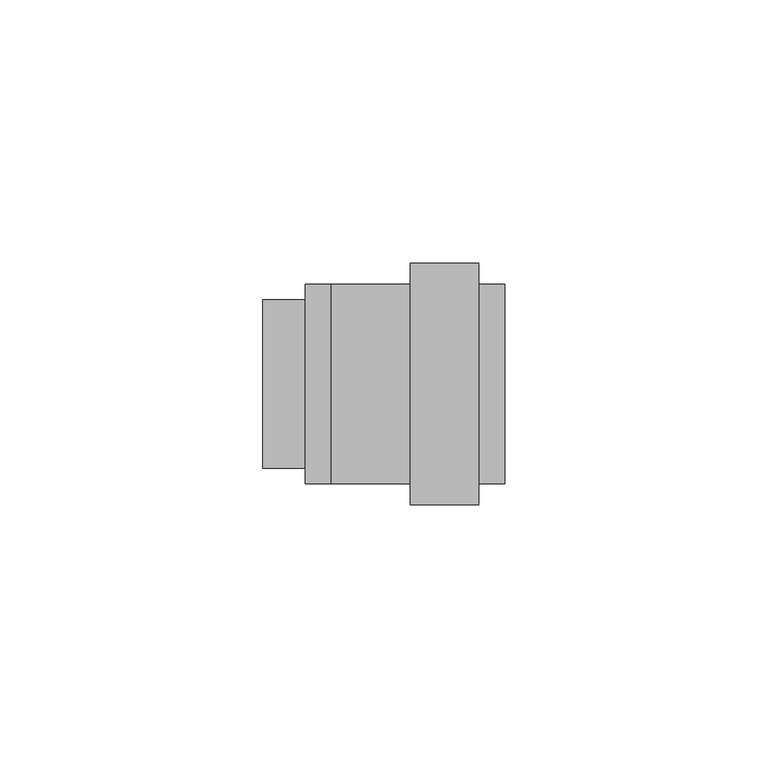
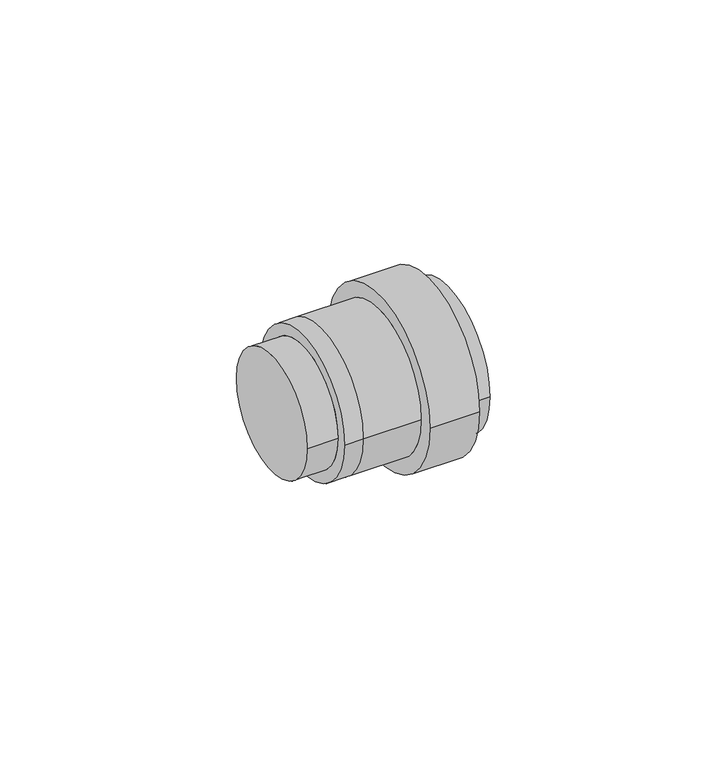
"""IFC4 building model written with IfcOpenShell, lengths in millimetres: pipe fitting geometry, Pipelife - VRD - Mufa z uszczelką : Pipelife - VRD - Mufa z uszczelką."""

from ifc_helpers import new_model, si_unit, frame, origin, place, context, project, spatial, polyline, circle_curve, source, transform, mapped, element, save
from ifc_brep_helpers import plane_surface, cylinder_surface, revolved_surface, advanced_brep


def pipe_fitting_e673ebe5(model_context):
    return source(origin(), model_context, "Body", "AdvancedBrep", [
        advanced_brep(
        [(40.5, -19.0, 0.0), (40.5, 19.0, 0.0), (40.5, -16.0, 0.0), (40.5, 16.0, 0.0), (35.5, 19.0, 0.0), (35.5, -19.0, 0.0), (7.5, -19.0, 0.0), (22.5, -19.0, 0.0), (22.5, 19.0, 0.0), (7.5, 19.0, 0.0), (5.5, 16.0, 0.0), (5.5, -16.0, 0.0), (22.5, -23.0, 0.0), (22.5, 23.0, 0.0), (35.5, -23.0, 0.0), (35.5, 23.0, 0.0), (2.5, -19.0, 0.0), (2.5, 19.0, 0.0), (2.5, 16.0, 0.0), (2.5, -16.0, 0.0), (-5.5, -16.0, 0.0), (-5.5, 16.0, 0.0)],
        [
            (0, 1, circle_curve(frame((40.5, 0.0, 0.0), z_axis=(1.0, 0.0, 0.0), x_axis=(0.0, 1.0000000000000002, 0.0)), 19.0)),
            (1, 0, circle_curve(frame((40.5, 0.0, 0.0), z_axis=(1.0, 0.0, 0.0), x_axis=(0.0, 1.0000000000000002, 0.0)), 19.0)),
            (2, 3, circle_curve(frame((40.5, 0.0, 0.0), z_axis=(-1.0, 0.0, 0.0), x_axis=(0.0, -1.0000000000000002, 0.0)), 16.0)),
            (3, 2, circle_curve(frame((40.5, 0.0, 0.0), z_axis=(-1.0, 0.0, 0.0), x_axis=(0.0, -1.0000000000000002, 0.0)), 16.0)),
            (1, 4),
            (4, 5, circle_curve(frame((35.5, 0.0, 0.0), z_axis=(1.0, 0.0, 0.0), x_axis=(0.0, 1.0000000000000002, 0.0)), 19.0)),
            (5, 0),
            (6, 7),
            (7, 8, circle_curve(frame((22.5, 0.0, 0.0), z_axis=(-1.0, 0.0, 0.0), x_axis=(0.0, 1.0000000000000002, 0.0)), 19.0)),
            (8, 9),
            (9, 6, circle_curve(frame((7.5, 0.0, 0.0), z_axis=(1.0, 0.0, 0.0), x_axis=(0.0, 1.0000000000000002, 0.0)), 19.0)),
            (5, 4, circle_curve(frame((35.5, 0.0, 0.0), z_axis=(1.0, 0.0, 0.0), x_axis=(0.0, 1.0000000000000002, 0.0)), 19.0)),
            (6, 9, circle_curve(frame((7.5, 0.0, 0.0), z_axis=(1.0, 0.0, 0.0), x_axis=(0.0, 1.0000000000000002, 0.0)), 19.0)),
            (8, 7, circle_curve(frame((22.5, 0.0, 0.0), z_axis=(-1.0, 0.0, 0.0), x_axis=(0.0, 1.0000000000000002, 0.0)), 19.0)),
            (10, 11, circle_curve(frame((5.5, 0.0, 0.0), z_axis=(1.0, 0.0, 0.0), x_axis=(0.0, -1.0000000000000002, 0.0)), 16.0)),
            (11, 10, circle_curve(frame((5.5, 0.0, 0.0), z_axis=(1.0, 0.0, 0.0), x_axis=(0.0, -1.0000000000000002, 0.0)), 16.0)),
            (10, 3),
            (2, 11),
            (12, 13, circle_curve(frame((22.5, 0.0, 0.0), z_axis=(-1.0, 0.0, 0.0), x_axis=(0.0, 1.0000000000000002, 0.0)), 23.0)),
            (13, 12, circle_curve(frame((22.5, 0.0, 0.0), z_axis=(-1.0, 0.0, 0.0), x_axis=(0.0, 1.0000000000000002, 0.0)), 23.0)),
            (14, 15, circle_curve(frame((35.5, 0.0, 0.0), z_axis=(1.0, 0.0, 0.0), x_axis=(0.0, 1.0000000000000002, 0.0)), 23.0)),
            (15, 14, circle_curve(frame((35.5, 0.0, 0.0), z_axis=(1.0, 0.0, 0.0), x_axis=(0.0, 1.0000000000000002, 0.0)), 23.0)),
            (12, 14),
            (15, 13),
            (16, 17, circle_curve(frame((2.5, 0.0, 0.0), z_axis=(-1.0, 0.0, 0.0), x_axis=(0.0, 1.0000000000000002, 0.0)), 19.0)),
            (17, 16, circle_curve(frame((2.5, 0.0, 0.0), z_axis=(-1.0, 0.0, 0.0), x_axis=(0.0, 1.0000000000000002, 0.0)), 19.0)),
            (18, 19, circle_curve(frame((2.5, 0.0, 0.0), z_axis=(1.0, 0.0, 0.0), x_axis=(0.0, 1.0000000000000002, 0.0)), 16.0)),
            (19, 18, circle_curve(frame((2.5, 0.0, 0.0), z_axis=(1.0, 0.0, 0.0), x_axis=(0.0, 1.0000000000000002, 0.0)), 16.0)),
            (16, 6),
            (9, 17),
            (20, 21, circle_curve(frame((-5.5, 0.0, 0.0), z_axis=(-1.0, 0.0, 0.0), x_axis=(0.0, 1.0000000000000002, 0.0)), 16.0)),
            (21, 20, circle_curve(frame((-5.5, 0.0, 0.0), z_axis=(-1.0, 0.0, 0.0), x_axis=(0.0, 1.0000000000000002, 0.0)), 16.0)),
            (20, 19),
            (18, 21),
        ],
        [
            plane_surface(frame((40.5, 0.0, 0.0), z_axis=(1.0, 0.0, 0.0), x_axis=(0.0, 0.0, 1.0))),
            cylinder_surface(frame((7.5, 0.0, 0.0), z_axis=(-1.0000000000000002, 0.0, 0.0), x_axis=(0.0, 1.0000000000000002, 0.0)), 19.0),
            plane_surface(frame((5.5, 0.0, 0.0), z_axis=(1.0, 0.0, 0.0), x_axis=(0.0, 0.0, 1.0))),
            revolved_surface(polyline([(40.5, -16.000000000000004, 0.0), (5.499999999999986, -16.000000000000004, 0.0)]), (40.5, 0.0, 0.0), (1.0000000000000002, 0.0, 0.0)),
            plane_surface(frame((22.5, 0.0, 0.0), z_axis=(-1.0, 0.0, 0.0), x_axis=(0.0, 0.0, 1.0))),
            plane_surface(frame((35.5, 0.0, 0.0), z_axis=(1.0, 0.0, 0.0), x_axis=(0.0, 0.0, 1.0))),
            cylinder_surface(frame((22.5, 0.0, 0.0), z_axis=(-1.0000000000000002, 0.0, 0.0), x_axis=(0.0, 1.0000000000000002, 0.0)), 23.0),
            plane_surface(frame((2.5, 0.0, 0.0), z_axis=(-1.0, 0.0, 0.0), x_axis=(0.0, 0.0, 1.0))),
            cylinder_surface(frame((2.5, 0.0, 0.0), z_axis=(-1.0000000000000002, 0.0, 0.0), x_axis=(0.0, 1.0000000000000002, 0.0)), 19.0),
            plane_surface(frame((-5.5, 0.0, 0.0), z_axis=(-1.0, 0.0, 0.0), x_axis=(0.0, 0.0, 1.0))),
            cylinder_surface(frame((-5.5, 0.0, 0.0), z_axis=(-1.0000000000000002, 0.0, 0.0), x_axis=(0.0, 1.0000000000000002, 0.0)), 16.0),
        ],
        [
            (0, [[1, 2], [3, 4]]),
            (1, [[-2, 5, 6, 7]]),
            (1, [[8, 9, 10, 11]]),
            (1, [[-1, -7, 12, -5]]),
            (1, [[-8, 13, -10, 14]]),
            (2, [[15, 16]]),
            (3, [[-15, 17, -3, 18]]),
            (3, [[-16, -18, -4, -17]]),
            (4, [[19, 20], [-9, -14]]),
            (5, [[21, 22], [-6, -12]]),
            (6, [[-19, 23, -22, 24]]),
            (6, [[-20, -24, -21, -23]]),
            (7, [[25, 26], [27, 28]]),
            (8, [[-25, 29, -11, 30]]),
            (8, [[-26, -30, -13, -29]]),
            (9, [[31, 32]]),
            (10, [[-31, 33, -27, 34]]),
            (10, [[-32, -34, -28, -33]]),
        ],
    ),
    ])


if __name__ == "__main__":
    model = new_model("IFC4")
    model_context = context("Model", 3, world=origin())
    ifc_project = project(units=[si_unit("LENGTHUNIT", "METRE", prefix="MILLI")], contexts=[model_context])
    site = spatial("IfcSite", under=ifc_project)
    building = spatial("IfcBuilding", under=site)
    placement = place(None, origin())
    pipe_fitting_shape = pipe_fitting_e673ebe5(model_context)
    element("IfcPipeFitting", 1, ObjectType="Pipelife - VRD - Mufa z uszczelką : Pipelife - VRD - Mufa z uszczelką", at=placement, inside=building, context=model_context, shape_type="MappedRepresentation", body=[
        mapped(pipe_fitting_shape, transform((0.0, 0.0, 0.0), x_axis=(1.0, 0.0, 0.0), y_axis=(0.0, 1.0, 0.0), z_axis=(0.0, 0.0, 1.0))),
    ])
    save(model, "model.ifc")
